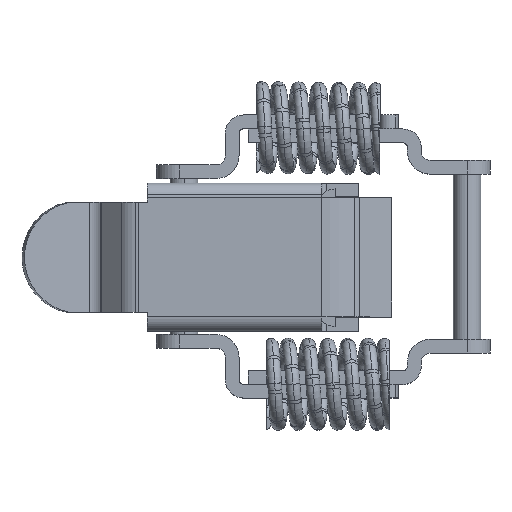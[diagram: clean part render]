
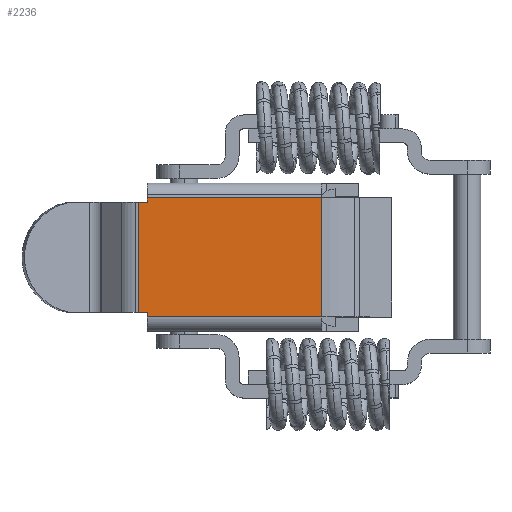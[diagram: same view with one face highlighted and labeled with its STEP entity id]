
A CAD part, top view. The second image highlights one B-rep face of the part: STEP entity #2236.
In plain terms, the highlighted planar face has unit normal (0, 0, 1) as drawn and (0, 0, -1) by its records, which use the part's own axes.
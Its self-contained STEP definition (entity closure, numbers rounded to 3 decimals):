
#204=CARTESIAN_POINT('',(-7.5,16.,-0.75));
#205=VERTEX_POINT('',#204);
#213=CARTESIAN_POINT('',(-7.5,-3.0,-0.75));
#214=VERTEX_POINT('',#213);
#215=CARTESIAN_POINT('',(-7.5,-3.0,-0.75));
#216=DIRECTION('',(0.0,1.0,0.0));
#217=VECTOR('',#216,19.);
#218=LINE('',#215,#217);
#219=EDGE_CURVE('',#214,#205,#218,.T.);
#246=CARTESIAN_POINT('',(5.5,16.,-0.75));
#247=VERTEX_POINT('',#246);
#255=CARTESIAN_POINT('',(-7.5,16.,-0.75));
#256=DIRECTION('',(1.0,0.0,0.0));
#257=VECTOR('',#256,13.);
#258=LINE('',#255,#257);
#259=EDGE_CURVE('',#205,#247,#258,.T.);
#1156=CARTESIAN_POINT('',(-7.0,-3.0,-0.75));
#1157=VERTEX_POINT('',#1156);
#1164=CARTESIAN_POINT('',(-7.0,-4.,-0.75));
#1165=VERTEX_POINT('',#1164);
#1166=CARTESIAN_POINT('',(-7.0,-3.0,-0.75));
#1167=DIRECTION('',(0.0,-1.0,0.0));
#1168=VECTOR('',#1167,1.);
#1169=LINE('',#1166,#1168);
#1170=EDGE_CURVE('',#1157,#1165,#1169,.T.);
#1520=CARTESIAN_POINT('',(5.0,-4.,-0.75));
#1521=VERTEX_POINT('',#1520);
#1522=CARTESIAN_POINT('',(5.0,-4.,-0.75));
#1523=DIRECTION('',(-1.0,0.0,0.0));
#1524=VECTOR('',#1523,12.0);
#1525=LINE('',#1522,#1524);
#1526=EDGE_CURVE('',#1521,#1165,#1525,.T.);
#1593=CARTESIAN_POINT('',(5.0,-3.0,-0.75));
#1594=VERTEX_POINT('',#1593);
#1595=CARTESIAN_POINT('',(5.0,-4.,-0.75));
#1596=DIRECTION('',(0.0,1.0,0.0));
#1597=VECTOR('',#1596,1.);
#1598=LINE('',#1595,#1597);
#1599=EDGE_CURVE('',#1521,#1594,#1598,.T.);
#1899=CARTESIAN_POINT('',(5.5,-3.0,-0.75));
#1900=VERTEX_POINT('',#1899);
#1901=CARTESIAN_POINT('',(5.0,-3.0,-0.75));
#1902=DIRECTION('',(1.0,0.0,0.0));
#1903=VECTOR('',#1902,0.5);
#1904=LINE('',#1901,#1903);
#1905=EDGE_CURVE('',#1594,#1900,#1904,.T.);
#2010=CARTESIAN_POINT('',(-7.5,-3.0,-0.75));
#2011=DIRECTION('',(1.0,0.0,0.0));
#2012=VECTOR('',#2011,0.5);
#2013=LINE('',#2010,#2012);
#2014=EDGE_CURVE('',#214,#1157,#2013,.T.);
#2154=CARTESIAN_POINT('',(5.5,16.,-0.75));
#2155=DIRECTION('',(0.0,-1.0,0.0));
#2156=VECTOR('',#2155,19.);
#2157=LINE('',#2154,#2156);
#2158=EDGE_CURVE('',#247,#1900,#2157,.T.);
#2221=CARTESIAN_POINT('',(-1.,6.109,-0.75));
#2222=DIRECTION('',(0.0,0.0,1.0));
#2223=DIRECTION('',(1.0,0.0,0.0));
#2224=AXIS2_PLACEMENT_3D('',#2221,#2222,#2223);
#2225=PLANE('',#2224);
#2226=ORIENTED_EDGE('',*,*,#1526,.T.);
#2227=ORIENTED_EDGE('',*,*,#1170,.F.);
#2228=ORIENTED_EDGE('',*,*,#2014,.F.);
#2229=ORIENTED_EDGE('',*,*,#219,.T.);
#2230=ORIENTED_EDGE('',*,*,#259,.T.);
#2231=ORIENTED_EDGE('',*,*,#2158,.T.);
#2232=ORIENTED_EDGE('',*,*,#1905,.F.);
#2233=ORIENTED_EDGE('',*,*,#1599,.F.);
#2234=EDGE_LOOP('',(#2226,#2227,#2228,#2229,#2230,#2231,#2232,#2233));
#2235=FACE_OUTER_BOUND('',#2234,.T.);
#2236=ADVANCED_FACE('',(#2235),#2225,.F.);
